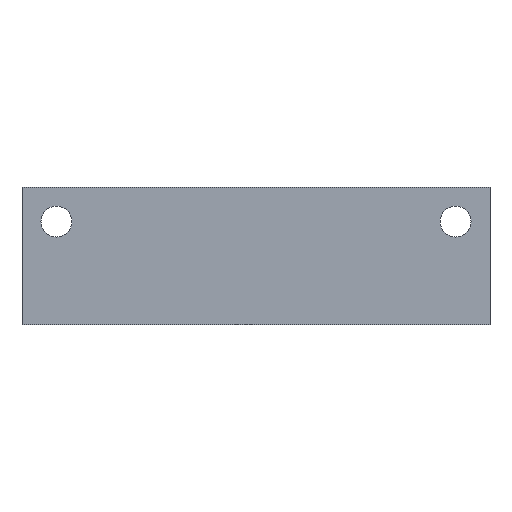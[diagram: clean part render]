
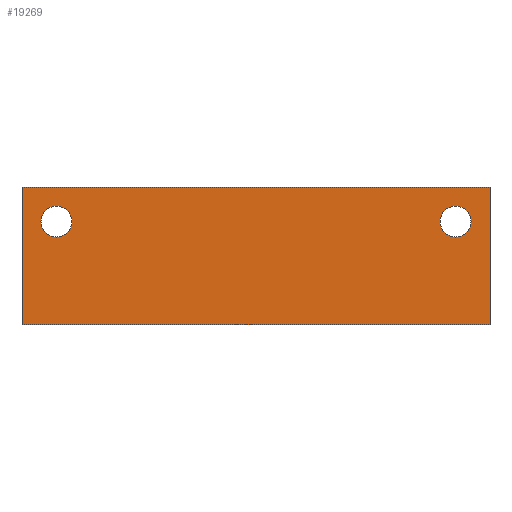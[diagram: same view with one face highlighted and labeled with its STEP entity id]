
A CAD part, front view. The second image highlights one B-rep face of the part: STEP entity #19269.
In plain terms, the highlighted planar face has unit normal (0, -1, 0).
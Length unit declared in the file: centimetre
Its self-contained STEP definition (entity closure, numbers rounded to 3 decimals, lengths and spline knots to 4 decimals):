
#389=CIRCLE('',#39220,0.225);
#462=CIRCLE('',#39527,0.225);
#1597=VERTEX_POINT('',#27055);
#1608=VERTEX_POINT('',#27080);
#1609=VERTEX_POINT('',#27082);
#2156=VERTEX_POINT('',#31290);
#2163=VERTEX_POINT('',#31309);
#2164=VERTEX_POINT('',#31314);
#3526=VECTOR('',#21284,1.);
#4079=VECTOR('',#22260,1.);
#4091=VECTOR('',#22273,1.);
#4092=VECTOR('',#22278,1.);
#5583=LINE('',#27081,#3526);
#6130=LINE('',#31289,#4079);
#6142=LINE('',#31310,#4091);
#6143=LINE('',#31315,#4092);
#7810=EDGE_CURVE('',#1597,#1597,#389,.T.);
#7823=EDGE_CURVE('',#1609,#1608,#5583,.T.);
#8668=EDGE_CURVE('',#1609,#2156,#6130,.T.);
#8680=EDGE_CURVE('',#2163,#1608,#6142,.T.);
#8681=EDGE_CURVE('',#2164,#2164,#462,.T.);
#8682=EDGE_CURVE('',#2156,#2163,#6143,.T.);
#12972=ORIENTED_EDGE('',*,*,#7810,.F.);
#12973=ORIENTED_EDGE('',*,*,#8681,.T.);
#12974=ORIENTED_EDGE('',*,*,#8680,.F.);
#12975=ORIENTED_EDGE('',*,*,#8682,.F.);
#12976=ORIENTED_EDGE('',*,*,#8668,.F.);
#12977=ORIENTED_EDGE('',*,*,#7823,.T.);
#16782=EDGE_LOOP('',(#12972));
#16783=EDGE_LOOP('',(#12973));
#16784=EDGE_LOOP('',(#12974,#12975,#12976,#12977));
#18056=FACE_BOUND('',#16782,.T.);
#18057=FACE_BOUND('',#16783,.T.);
#18058=FACE_BOUND('',#16784,.T.);
#19269=ADVANCED_FACE('',(#18056,#18057,#18058),#20218,.F.);
#20218=PLANE('',#39526);
#21268=DIRECTION('',(0.,-1.,0.));
#21269=DIRECTION('',(-0.225,0.,0.));
#21284=DIRECTION('',(0.,0.,1.));
#22260=DIRECTION('',(-1.,0.,0.));
#22273=DIRECTION('',(1.,0.,0.));
#22275=DIRECTION('',(0.,1.,0.));
#22276=DIRECTION('',(0.,1.,0.));
#22277=DIRECTION('',(0.225,0.,0.));
#22278=DIRECTION('',(0.,0.,1.));
#27054=CARTESIAN_POINT('',(3.5,0.,0.5));
#27055=CARTESIAN_POINT('',(3.725,0.,0.5));
#27080=CARTESIAN_POINT('',(4.,0.,1.));
#27081=CARTESIAN_POINT('',(4.,0.,-1.));
#27082=CARTESIAN_POINT('',(4.,0.,-1.));
#31289=CARTESIAN_POINT('',(-1.,0.,-1.));
#31290=CARTESIAN_POINT('',(-2.8,0.,-1.));
#31309=CARTESIAN_POINT('',(-2.8,0.,1.));
#31310=CARTESIAN_POINT('',(-2.8,0.,1.));
#31312=CARTESIAN_POINT('',(0.5,0.,0.));
#31313=CARTESIAN_POINT('',(-2.3,0.,0.5));
#31314=CARTESIAN_POINT('',(-2.525,0.,0.5));
#31315=CARTESIAN_POINT('',(-2.8,0.,-1.));
#39220=AXIS2_PLACEMENT_3D('',#27054,#21268,#21269);
#39526=AXIS2_PLACEMENT_3D('',#31312,#22275,$);
#39527=AXIS2_PLACEMENT_3D('',#31313,#22276,#22277);
